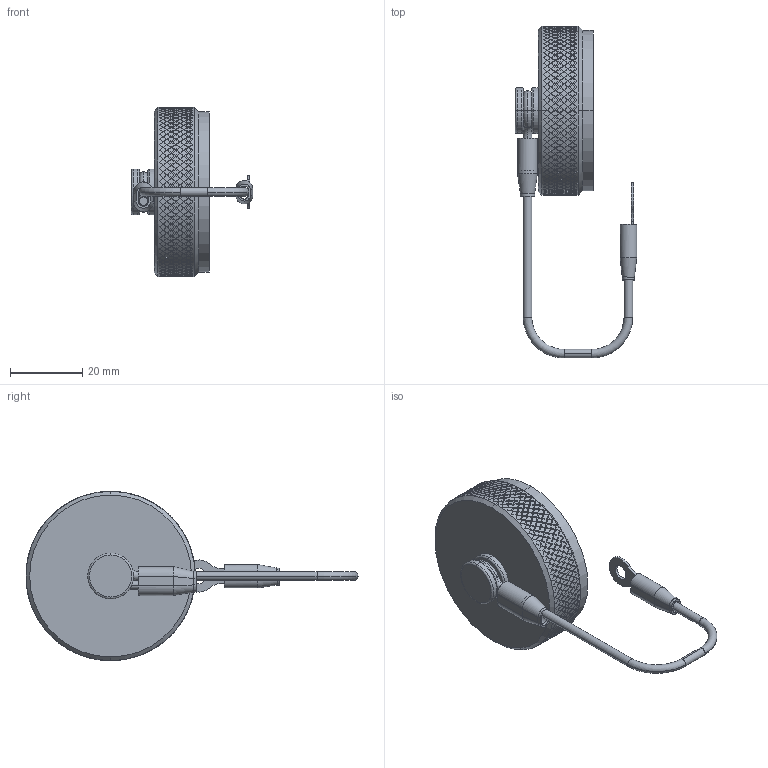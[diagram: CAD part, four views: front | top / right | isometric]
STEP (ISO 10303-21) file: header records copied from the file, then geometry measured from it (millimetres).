
FILE_DESCRIPTION (( 'STEP AP214' ), '1' );
FILE_NAME ('Q38DC-RFX-25-R1.STEP', '2026-04-22T20:15:46', ( '' ), ( '' ), 'SwSTEP 2.0', 'SolidWorks 2024', '' );
FILE_SCHEMA (( 'AUTOMOTIVE_DESIGN' ));
Length unit declared in the file: inch
Products named in the file (9): LN-06-07-13_Q38DC-RFX-25 (Assembled); SW-347; Q38-XX48-X_Q38-2548-X; Lanyard Assembly Q38_Q38DC-RFX-25; SW-348; Q38-XX29-P_25R; HEAT SHRINK_HS-250X625_SW-348; HEAT SHRINK_HS-125-625S; Q38DC-RFX-25-R1
Assembly tree (8 placements, depth 3):
  Q38DC-RFX-25-R1
    Q38-XX48-X_Q38-2548-X
    Lanyard Assembly Q38_Q38DC-RFX-25
      LN-06-07-13_Q38DC-RFX-25 (Assembled)
      SW-348
      HEAT SHRINK_HS-250X625_SW-348
      SW-347
      HEAT SHRINK_HS-125-625S
    Q38-XX29-P_25R
Bounding box: 33.64 x 91.93 x 46.86 mm (x, y, z)
Volume: 11484.4 mm3; surface area: 12422.4 mm2
Topology: 7 solids, 7 shells, 3392 faces, 8385 edges, 5567 vertices
Faces by surface type: plane 2629, cylinder 723, torus 20, bspline 14, cone 6
Entity records: 100351 total; most frequent: CARTESIAN_POINT 34895, ORIENTED_EDGE 16770, DIRECTION 10118, EDGE_CURVE 8385, VERTEX_POINT 5567, EDGE_LOOP 3962, AXIS2_PLACEMENT_3D 3710, FACE_OUTER_BOUND 3392
